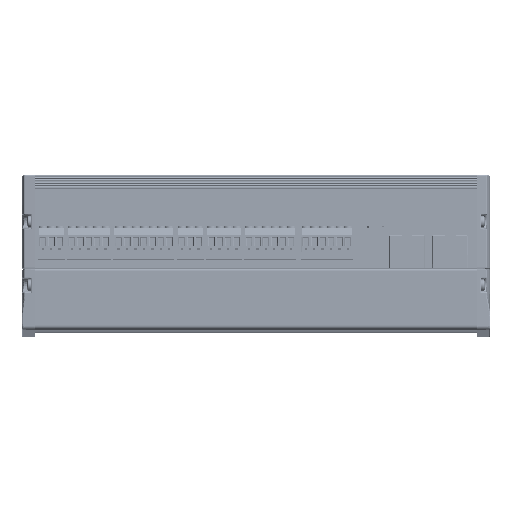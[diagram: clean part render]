
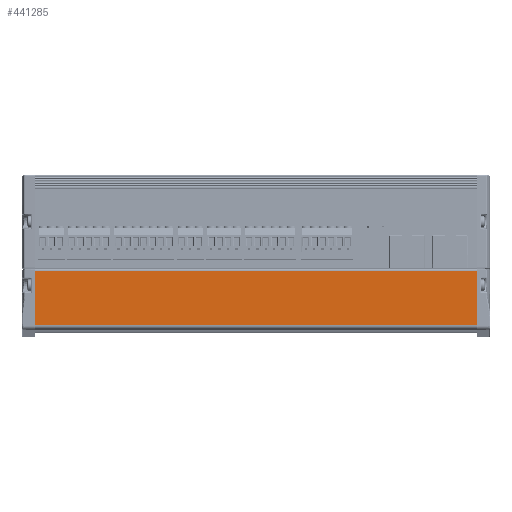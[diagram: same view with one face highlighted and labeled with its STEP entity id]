
A CAD part, top view. The second image highlights one B-rep face of the part: STEP entity #441285.
In plain terms, the highlighted planar face has unit normal (0, 0, 1) as drawn and (0, -1, 0) by its records, which use the part's own axes.
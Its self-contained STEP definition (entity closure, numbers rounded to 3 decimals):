
#16671 = ORIENTED_EDGE ( 'NONE', *, *, #80122, .F. ) ;
#31128 = EDGE_CURVE ( 'NONE', #329875, #164608, #408181, .T. ) ;
#41260 = LINE ( 'NONE', #281230, #122823 ) ;
#62552 = CARTESIAN_POINT ( 'NONE',  ( 467.259, 201.934, 0. ) ) ;
#63941 = CARTESIAN_POINT ( 'NONE',  ( 467.259, 201.934, 200. ) ) ;
#80122 = EDGE_CURVE ( 'NONE', #238411, #164608, #41260, .T. ) ;
#85593 = VECTOR ( 'NONE', #329704, 1000. ) ;
#96033 = AXIS2_PLACEMENT_3D ( 'NONE', #123340, #260185, #397210 ) ;
#98444 = DIRECTION ( 'NONE',  ( 0., 0., 1. ) ) ;
#102942 = CARTESIAN_POINT ( 'NONE',  ( 467.259, 201.934, 200. ) ) ;
#120887 = EDGE_CURVE ( 'NONE', #238411, #379213, #264493, .T. ) ;
#122823 = VECTOR ( 'NONE', #418242, 1000. ) ;
#123340 = CARTESIAN_POINT ( 'NONE',  ( 467.259, 201.934, 0. ) ) ;
#136290 = ORIENTED_EDGE ( 'NONE', *, *, #120887, .T. ) ;
#138540 = EDGE_LOOP ( 'NONE', ( #389168, #16671, #136290, #421390 ) ) ;
#148217 = FACE_OUTER_BOUND ( 'NONE', #138540, .T. ) ;
#164608 = VERTEX_POINT ( 'NONE', #422795 ) ;
#226243 = CARTESIAN_POINT ( 'NONE',  ( 442.553, 201.934, 0. ) ) ;
#232527 = VECTOR ( 'NONE', #98444, 1000. ) ;
#238411 = VERTEX_POINT ( 'NONE', #226243 ) ;
#248277 = VECTOR ( 'NONE', #315991, 1000. ) ;
#260185 = DIRECTION ( 'NONE',  ( 0., -1., 0. ) ) ;
#264443 = LINE ( 'NONE', #62552, #232527 ) ;
#264493 = LINE ( 'NONE', #331957, #85593 ) ;
#273156 = CARTESIAN_POINT ( 'NONE',  ( 467.259, 201.934, 0. ) ) ;
#281230 = CARTESIAN_POINT ( 'NONE',  ( 442.553, 201.934, 0. ) ) ;
#291688 = PLANE ( 'NONE',  #96033 ) ;
#315991 = DIRECTION ( 'NONE',  ( -1., 0., 0. ) ) ;
#329704 = DIRECTION ( 'NONE',  ( 1., 0., 0. ) ) ;
#329875 = VERTEX_POINT ( 'NONE', #63941 ) ;
#331957 = CARTESIAN_POINT ( 'NONE',  ( 442.553, 201.934, 0. ) ) ;
#379213 = VERTEX_POINT ( 'NONE', #273156 ) ;
#389168 = ORIENTED_EDGE ( 'NONE', *, *, #31128, .T. ) ;
#397210 = DIRECTION ( 'NONE',  ( 0., 0., -1. ) ) ;
#408181 = LINE ( 'NONE', #102942, #248277 ) ;
#418242 = DIRECTION ( 'NONE',  ( 0., 0., 1. ) ) ;
#421390 = ORIENTED_EDGE ( 'NONE', *, *, #425881, .T. ) ;
#422795 = CARTESIAN_POINT ( 'NONE',  ( 442.553, 201.934, 200. ) ) ;
#425881 = EDGE_CURVE ( 'NONE', #379213, #329875, #264443, .T. ) ;
#441285 = ADVANCED_FACE ( 'NONE', ( #148217 ), #291688, .T. ) ;
